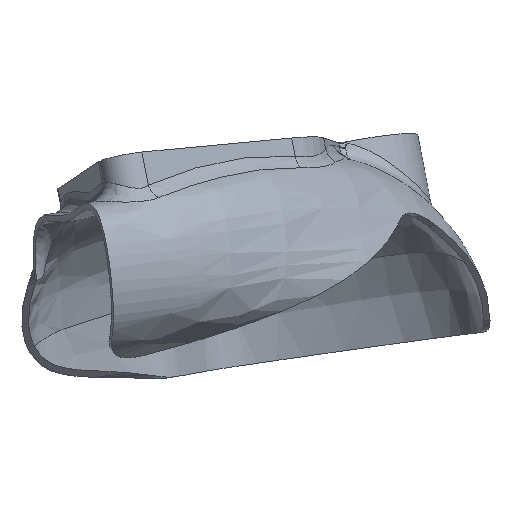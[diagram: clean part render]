
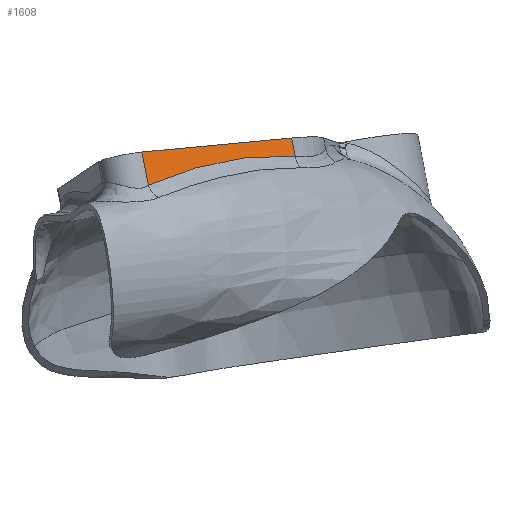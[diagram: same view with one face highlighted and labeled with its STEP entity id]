
A CAD part, top view. The second image highlights one B-rep face of the part: STEP entity #1608.
In plain terms, the highlighted planar face has unit normal (0.721, 0.201, 0.663).
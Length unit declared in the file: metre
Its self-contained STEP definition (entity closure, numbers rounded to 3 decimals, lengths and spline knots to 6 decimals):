
#175=B_SPLINE_CURVE_WITH_KNOTS('',3,(#4938,#4939,#4940,#4941,#4942,#4943,
#4944,#4945),.UNSPECIFIED.,.F.,.F.,(4,1,1,1,1,4),(0.,0.02184,
0.043679,0.065519,0.076438,0.087358),
 .UNSPECIFIED.);
#419=ORIENTED_EDGE('',*,*,#846,.T.);
#420=ORIENTED_EDGE('',*,*,#847,.T.);
#421=ORIENTED_EDGE('',*,*,#843,.F.);
#422=ORIENTED_EDGE('',*,*,#848,.F.);
#843=EDGE_CURVE('',#1059,#1060,#1165,.T.);
#846=EDGE_CURVE('',#1061,#1062,#1166,.T.);
#847=EDGE_CURVE('',#1062,#1060,#1167,.T.);
#848=EDGE_CURVE('',#1061,#1059,#175,.T.);
#1059=VERTEX_POINT('',#4919);
#1060=VERTEX_POINT('',#4920);
#1061=VERTEX_POINT('',#4935);
#1062=VERTEX_POINT('',#4936);
#1165=LINE('',#4918,#1282);
#1166=LINE('',#4934,#1283);
#1167=LINE('',#4937,#1284);
#1282=VECTOR('',#1969,1.);
#1283=VECTOR('',#1974,1.);
#1284=VECTOR('',#1975,1.);
#1368=EDGE_LOOP('',(#419,#420,#421,#422));
#1469=FACE_BOUND('',#1368,.T.);
#1553=PLANE('',#1729);
#1608=ADVANCED_FACE('',(#1469),#1553,.T.);
#1729=AXIS2_PLACEMENT_3D('',#4933,#1972,#1973);
#1969=DIRECTION('',(-0.192,0.978,-0.088));
#1972=DIRECTION('',(0.721,0.201,0.663));
#1973=DIRECTION('',(-0.636,-0.188,0.749));
#1974=DIRECTION('',(-0.192,0.978,-0.088));
#1975=DIRECTION('',(-0.665,-0.064,0.744));
#4918=CARTESIAN_POINT('',(-1.180081,-0.390592,0.18477));
#4919=CARTESIAN_POINT('',(-1.192388,-0.327798,0.17912));
#4920=CARTESIAN_POINT('',(-1.194901,-0.314976,0.177967));
#4933=CARTESIAN_POINT('',(-1.151111,-0.387827,0.152396));
#4934=CARTESIAN_POINT('',(-1.122141,-0.385061,0.120021));
#4935=CARTESIAN_POINT('',(-1.135581,-0.316492,0.113852));
#4936=CARTESIAN_POINT('',(-1.136962,-0.309445,0.113218));
#4937=CARTESIAN_POINT('',(-1.165932,-0.312211,0.145592));
#4938=CARTESIAN_POINT('',(-1.135581,-0.316492,0.113852));
#4939=CARTESIAN_POINT('',(-1.140609,-0.316092,0.119204));
#4940=CARTESIAN_POINT('',(-1.150462,-0.31626,0.129981));
#4941=CARTESIAN_POINT('',(-1.164806,-0.318541,0.146286));
#4942=CARTESIAN_POINT('',(-1.176522,-0.321656,0.159986));
#4943=CARTESIAN_POINT('',(-1.185699,-0.324826,0.170937));
#4944=CARTESIAN_POINT('',(-1.190188,-0.326716,0.176397));
#4945=CARTESIAN_POINT('',(-1.192388,-0.327798,0.17912));
